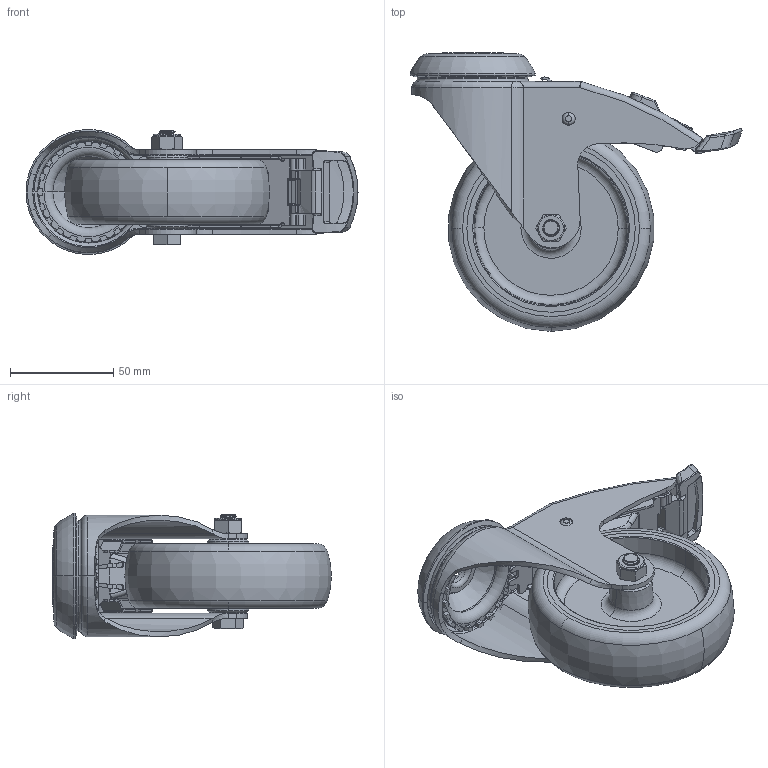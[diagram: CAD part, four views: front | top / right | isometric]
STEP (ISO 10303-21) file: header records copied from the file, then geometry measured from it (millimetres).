
FILE_DESCRIPTION (( 'STEP AP214' ), '1' );
FILE_NAME ('065.0039-Lenkrolle-D100-m.-Rückenloch-D11-kpl.-feststellbar-leitfähig.step', '2023-08-09T08:19:25', ( '' ), ( '' ), 'SwSTEP 2.0', 'SolidWorks 2021', '' );
FILE_SCHEMA (( 'AUTOMOTIVE_DESIGN' ));
Length unit declared in the file: millimetre
Products named in the file (1): 065.0039-Lenkrolle-D100-m.-Rückenloch-D11-kpl.-feststellbar-leitfähig
Bounding box: 160.76 x 135 x 60.6 mm (x, y, z)
Volume: 207832.1 mm3; surface area: 108963.3 mm2
Topology: 6 solids, 6 shells, 1064 faces, 2849 edges, 1809 vertices
Faces by surface type: cylinder 418, plane 259, bspline 216, torus 119, cone 48, sphere 4
Entity records: 62223 total; most frequent: CARTESIAN_POINT 25678, ORIENTED_EDGE 5690, DIRECTION 4526, EDGE_CURVE 2845, VERTEX_POINT 1809, AXIS2_PLACEMENT_3D 1717, EDGE_LOOP 1104, LINE 1092
